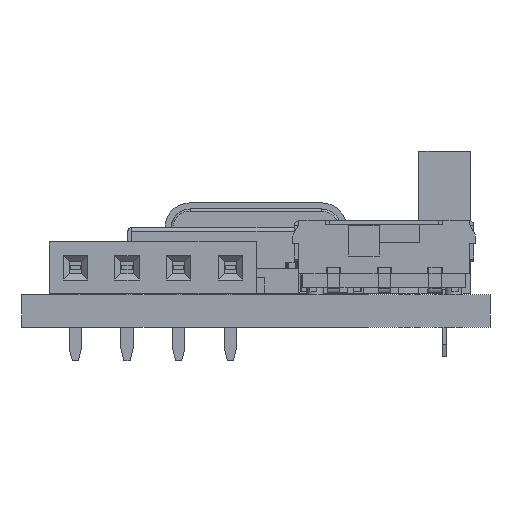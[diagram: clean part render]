
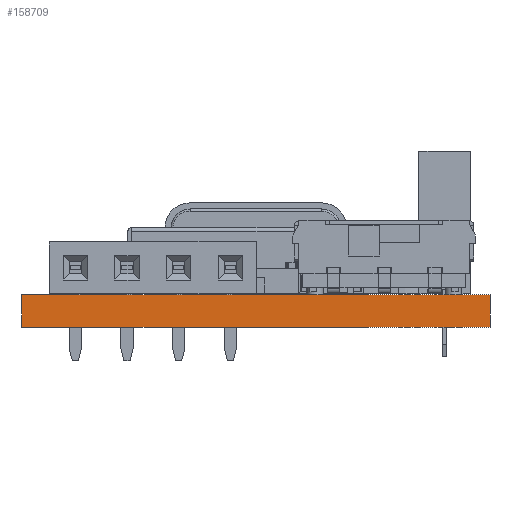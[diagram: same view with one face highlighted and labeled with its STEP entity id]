
A CAD part, front view. The second image highlights one B-rep face of the part: STEP entity #158709.
In plain terms, the highlighted planar face has unit normal (0, -1, 0).
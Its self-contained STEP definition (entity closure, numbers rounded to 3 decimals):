
#158709 = ADVANCED_FACE('',(#158710),#158724,.T.);
#158710 = FACE_BOUND('',#158711,.T.);
#158711 = EDGE_LOOP('',(#158712,#158747,#158775,#158803));
#158712 = ORIENTED_EDGE('',*,*,#158713,.T.);
#158713 = EDGE_CURVE('',#158714,#158716,#158718,.T.);
#158714 = VERTEX_POINT('',#158715);
#158715 = CARTESIAN_POINT('',(38.,-61.5,0.));
#158716 = VERTEX_POINT('',#158717);
#158717 = CARTESIAN_POINT('',(38.,-61.5,1.6));
#158718 = SURFACE_CURVE('',#158719,(#158723,#158735),.PCURVE_S1.);
#158719 = LINE('',#158720,#158721);
#158720 = CARTESIAN_POINT('',(38.,-61.5,0.));
#158721 = VECTOR('',#158722,1.);
#158722 = DIRECTION('',(0.,0.,1.));
#158723 = PCURVE('',#158724,#158729);
#158724 = PLANE('',#158725);
#158725 = AXIS2_PLACEMENT_3D('',#158726,#158727,#158728);
#158726 = CARTESIAN_POINT('',(38.,-61.5,0.));
#158727 = DIRECTION('',(0.,-1.,0.));
#158728 = DIRECTION('',(-1.,0.,0.));
#158729 = DEFINITIONAL_REPRESENTATION('',(#158730),#158734);
#158730 = LINE('',#158731,#158732);
#158731 = CARTESIAN_POINT('',(0.,-0.));
#158732 = VECTOR('',#158733,1.);
#158733 = DIRECTION('',(0.,-1.));
#158734 = ( GEOMETRIC_REPRESENTATION_CONTEXT(2) 
PARAMETRIC_REPRESENTATION_CONTEXT() REPRESENTATION_CONTEXT('2D SPACE',''
  ) );
#158735 = PCURVE('',#158736,#158741);
#158736 = PLANE('',#158737);
#158737 = AXIS2_PLACEMENT_3D('',#158738,#158739,#158740);
#158738 = CARTESIAN_POINT('',(38.,-15.,0.));
#158739 = DIRECTION('',(1.,0.,-0.));
#158740 = DIRECTION('',(0.,-1.,0.));
#158741 = DEFINITIONAL_REPRESENTATION('',(#158742),#158746);
#158742 = LINE('',#158743,#158744);
#158743 = CARTESIAN_POINT('',(46.5,0.));
#158744 = VECTOR('',#158745,1.);
#158745 = DIRECTION('',(0.,-1.));
#158746 = ( GEOMETRIC_REPRESENTATION_CONTEXT(2) 
PARAMETRIC_REPRESENTATION_CONTEXT() REPRESENTATION_CONTEXT('2D SPACE',''
  ) );
#158747 = ORIENTED_EDGE('',*,*,#158748,.T.);
#158748 = EDGE_CURVE('',#158716,#158749,#158751,.T.);
#158749 = VERTEX_POINT('',#158750);
#158750 = CARTESIAN_POINT('',(15.,-61.5,1.6));
#158751 = SURFACE_CURVE('',#158752,(#158756,#158763),.PCURVE_S1.);
#158752 = LINE('',#158753,#158754);
#158753 = CARTESIAN_POINT('',(38.,-61.5,1.6));
#158754 = VECTOR('',#158755,1.);
#158755 = DIRECTION('',(-1.,0.,0.));
#158756 = PCURVE('',#158724,#158757);
#158757 = DEFINITIONAL_REPRESENTATION('',(#158758),#158762);
#158758 = LINE('',#158759,#158760);
#158759 = CARTESIAN_POINT('',(0.,-1.6));
#158760 = VECTOR('',#158761,1.);
#158761 = DIRECTION('',(1.,0.));
#158762 = ( GEOMETRIC_REPRESENTATION_CONTEXT(2) 
PARAMETRIC_REPRESENTATION_CONTEXT() REPRESENTATION_CONTEXT('2D SPACE',''
  ) );
#158763 = PCURVE('',#158764,#158769);
#158764 = PLANE('',#158765);
#158765 = AXIS2_PLACEMENT_3D('',#158766,#158767,#158768);
#158766 = CARTESIAN_POINT('',(26.5,-38.25,1.6));
#158767 = DIRECTION('',(-0.,-0.,-1.));
#158768 = DIRECTION('',(-1.,0.,0.));
#158769 = DEFINITIONAL_REPRESENTATION('',(#158770),#158774);
#158770 = LINE('',#158771,#158772);
#158771 = CARTESIAN_POINT('',(-11.5,-23.25));
#158772 = VECTOR('',#158773,1.);
#158773 = DIRECTION('',(1.,0.));
#158774 = ( GEOMETRIC_REPRESENTATION_CONTEXT(2) 
PARAMETRIC_REPRESENTATION_CONTEXT() REPRESENTATION_CONTEXT('2D SPACE',''
  ) );
#158775 = ORIENTED_EDGE('',*,*,#158776,.F.);
#158776 = EDGE_CURVE('',#158777,#158749,#158779,.T.);
#158777 = VERTEX_POINT('',#158778);
#158778 = CARTESIAN_POINT('',(15.,-61.5,0.));
#158779 = SURFACE_CURVE('',#158780,(#158784,#158791),.PCURVE_S1.);
#158780 = LINE('',#158781,#158782);
#158781 = CARTESIAN_POINT('',(15.,-61.5,0.));
#158782 = VECTOR('',#158783,1.);
#158783 = DIRECTION('',(0.,0.,1.));
#158784 = PCURVE('',#158724,#158785);
#158785 = DEFINITIONAL_REPRESENTATION('',(#158786),#158790);
#158786 = LINE('',#158787,#158788);
#158787 = CARTESIAN_POINT('',(23.,0.));
#158788 = VECTOR('',#158789,1.);
#158789 = DIRECTION('',(0.,-1.));
#158790 = ( GEOMETRIC_REPRESENTATION_CONTEXT(2) 
PARAMETRIC_REPRESENTATION_CONTEXT() REPRESENTATION_CONTEXT('2D SPACE',''
  ) );
#158791 = PCURVE('',#158792,#158797);
#158792 = PLANE('',#158793);
#158793 = AXIS2_PLACEMENT_3D('',#158794,#158795,#158796);
#158794 = CARTESIAN_POINT('',(15.,-61.5,0.));
#158795 = DIRECTION('',(-1.,0.,0.));
#158796 = DIRECTION('',(0.,1.,0.));
#158797 = DEFINITIONAL_REPRESENTATION('',(#158798),#158802);
#158798 = LINE('',#158799,#158800);
#158799 = CARTESIAN_POINT('',(0.,0.));
#158800 = VECTOR('',#158801,1.);
#158801 = DIRECTION('',(0.,-1.));
#158802 = ( GEOMETRIC_REPRESENTATION_CONTEXT(2) 
PARAMETRIC_REPRESENTATION_CONTEXT() REPRESENTATION_CONTEXT('2D SPACE',''
  ) );
#158803 = ORIENTED_EDGE('',*,*,#158804,.F.);
#158804 = EDGE_CURVE('',#158714,#158777,#158805,.T.);
#158805 = SURFACE_CURVE('',#158806,(#158810,#158817),.PCURVE_S1.);
#158806 = LINE('',#158807,#158808);
#158807 = CARTESIAN_POINT('',(38.,-61.5,0.));
#158808 = VECTOR('',#158809,1.);
#158809 = DIRECTION('',(-1.,0.,0.));
#158810 = PCURVE('',#158724,#158811);
#158811 = DEFINITIONAL_REPRESENTATION('',(#158812),#158816);
#158812 = LINE('',#158813,#158814);
#158813 = CARTESIAN_POINT('',(0.,-0.));
#158814 = VECTOR('',#158815,1.);
#158815 = DIRECTION('',(1.,0.));
#158816 = ( GEOMETRIC_REPRESENTATION_CONTEXT(2) 
PARAMETRIC_REPRESENTATION_CONTEXT() REPRESENTATION_CONTEXT('2D SPACE',''
  ) );
#158817 = PCURVE('',#158818,#158823);
#158818 = PLANE('',#158819);
#158819 = AXIS2_PLACEMENT_3D('',#158820,#158821,#158822);
#158820 = CARTESIAN_POINT('',(26.5,-38.25,0.));
#158821 = DIRECTION('',(-0.,-0.,-1.));
#158822 = DIRECTION('',(-1.,0.,0.));
#158823 = DEFINITIONAL_REPRESENTATION('',(#158824),#158828);
#158824 = LINE('',#158825,#158826);
#158825 = CARTESIAN_POINT('',(-11.5,-23.25));
#158826 = VECTOR('',#158827,1.);
#158827 = DIRECTION('',(1.,0.));
#158828 = ( GEOMETRIC_REPRESENTATION_CONTEXT(2) 
PARAMETRIC_REPRESENTATION_CONTEXT() REPRESENTATION_CONTEXT('2D SPACE',''
  ) );
